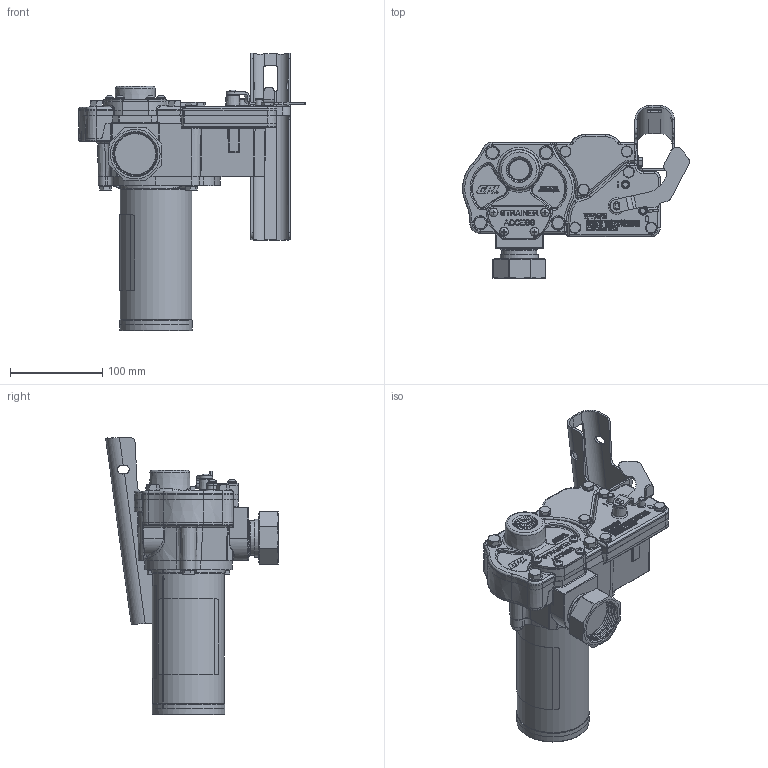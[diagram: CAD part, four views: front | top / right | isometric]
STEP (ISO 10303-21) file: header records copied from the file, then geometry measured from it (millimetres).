
FILE_DESCRIPTION(/* description */ (''),/* implementation_level */ '2;1');
FILE_NAME(/* name */ 'C:\Vault Projects\GPI Eng\New Projects\DHarris\Website model updates\STEP\M-150S-PO.stp',/* time_stamp */ '2022-07-19T10:46:11-05:00',/* author */ ('gdanhar'),/* organization */ (''),/* preprocessor_version */ 'ST-DEVELOPER v18.1',/* originating_system */ 'Autodesk Inventor 2022',/* authorisation */ '');
FILE_SCHEMA (('AUTOMOTIVE_DESIGN { 1 0 10303 214 3 1 1 }'));
Length unit declared in the file: inch
Products named in the file (1): M-150S-PO
Bounding box: 246.25 x 187.67 x 301.79 mm (x, y, z)
Volume: 2295357.7 mm3; surface area: 232490.6 mm2
Topology: 4 solids, 4 shells, 3729 faces, 9712 edges, 6179 vertices
Faces by surface type: plane 1788, bspline 875, cylinder 486, torus 309, cone 240, sphere 31
Full cylindrical faces by diameter (mm): 0.001 x1, 1.383 x1, 1.542 x1, 3.048 x1, 5.105 x2, 6.35 x3, 6.477 x4, 9.474 x4, 9.728 x4, 11.125 x6, 11.989 x6, 12.141 x3, 12.7 x2, 15.494 x4, 19.007 x1, 19.05 x1, 37.846 x1, 41.25 x1, 44.45 x1, 45.644 x7, 48.875 x7, 77.953 x1
Entity records: 139633 total; most frequent: CARTESIAN_POINT 50895, ORIENTED_EDGE 19312, DIRECTION 14826, EDGE_CURVE 9656, VERTEX_POINT 6154, LINE 5332, VECTOR 5332, AXIS2_PLACEMENT_3D 4747
